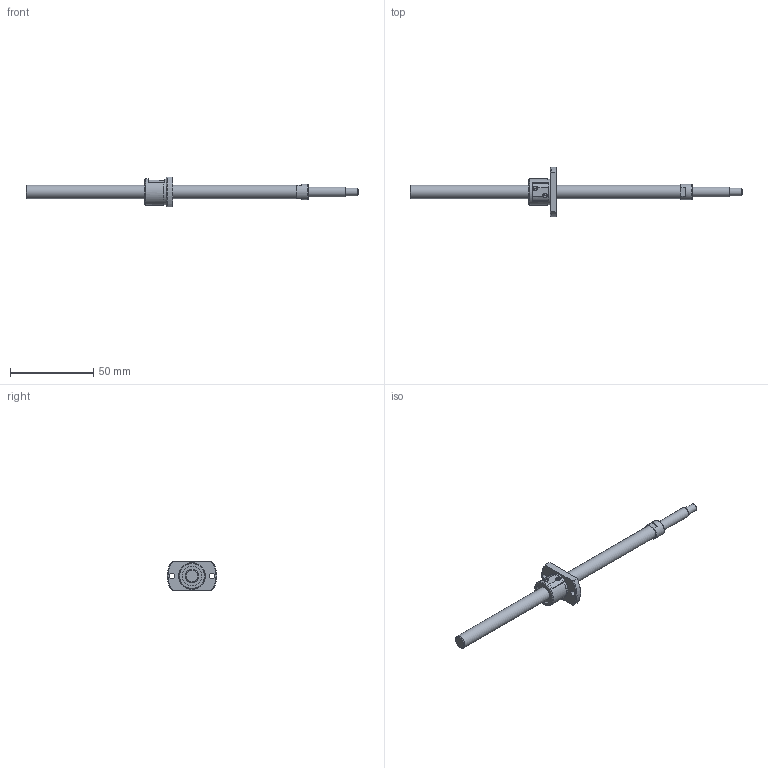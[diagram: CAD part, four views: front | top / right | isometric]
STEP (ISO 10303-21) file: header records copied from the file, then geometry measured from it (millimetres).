
FILE_DESCRIPTION(/* description */ ('STEP AP214'),/* implementation_level */ '2;1');
FILE_NAME(/* name */ 'SG0801-160R200C3A0X(71.5)',/* time_stamp */ '2026-07-21T16:38:58+02:00',/* author */ ('License CC BY-ND 4.0'),/* organization */ ('CADENAS'),/* preprocessor_version */ 'ST-DEVELOPER v20',/* originating_system */ 'PARTsolutions',/* authorisation */ ' ');
FILE_SCHEMA (('AUTOMOTIVE_DESIGN {1 0 10303 214 3 1 1}'));
Length unit declared in the file: millimetre
Products named in the file (3): SG0801-160R200C3A0X(71.5); SG0801-160R200C3A_shaft; SG0801_nut
Assembly tree (2 placements, depth 2):
  SG0801-160R200C3A0X(71.5)
    SG0801-160R200C3A_shaft
    SG0801_nut
Bounding box: 200 x 30 x 18 mm (x, y, z)
Volume: 12912.5 mm3; surface area: 7369 mm2
Topology: 2 solids, 2 shells, 74 faces, 182 edges, 119 vertices
Faces by surface type: plane 35, cylinder 25, cone 13, torus 1
Full cylindrical faces by diameter (mm): 3.4 x2, 4.5 x1, 6 x1, 8 x2, 9.5 x1, 12 x2, 15.6 x1, 16 x1
Entity records: 2123 total; most frequent: CARTESIAN_POINT 405, DIRECTION 354, ORIENTED_EDGE 304, EDGE_CURVE 152, AXIS2_PLACEMENT_3D 147, VERTEX_POINT 110, EDGE_LOOP 108, FACE_BOUND 108
